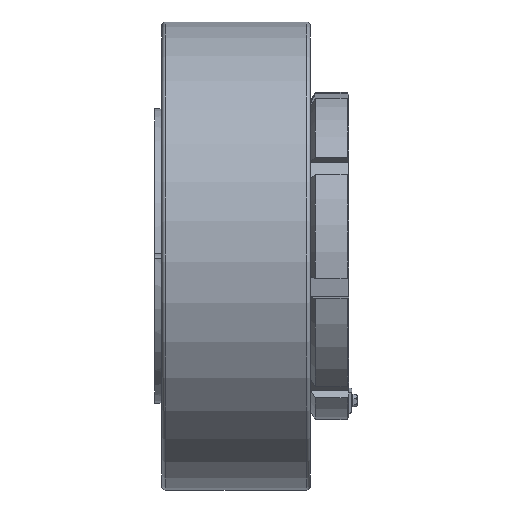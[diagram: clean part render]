
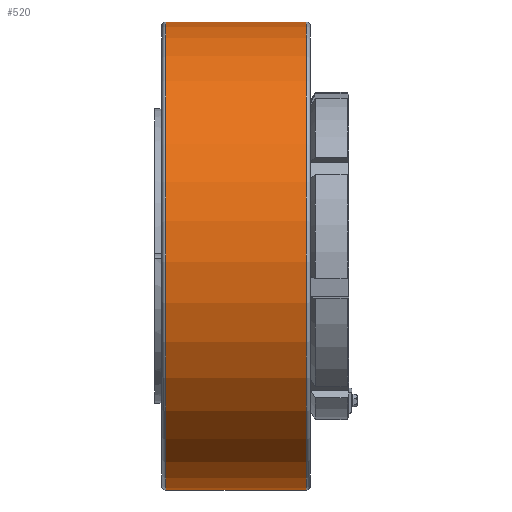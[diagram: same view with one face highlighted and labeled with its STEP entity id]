
A CAD part, front view. The second image highlights one B-rep face of the part: STEP entity #520.
In plain terms, the highlighted cylindrical face has radius 415 mm (diameter 830 mm), a full revolution.
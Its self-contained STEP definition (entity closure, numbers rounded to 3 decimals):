
#520 = ADVANCED_FACE( '', ( #1169, #1170 ), #1171, .T. );
#1169 = FACE_OUTER_BOUND( '', #1942, .T. );
#1170 = FACE_OUTER_BOUND( '', #1943, .T. );
#1171 = CYLINDRICAL_SURFACE( '', #1944, 415. );
#1942 = EDGE_LOOP( '', ( #4076 ) );
#1943 = EDGE_LOOP( '', ( #4077 ) );
#1944 = AXIS2_PLACEMENT_3D( '', #4078, #4079, #4080 );
#4076 = ORIENTED_EDGE( '', *, *, #5532, .T. );
#4077 = ORIENTED_EDGE( '', *, *, #5546, .F. );
#4078 = CARTESIAN_POINT( '', ( 0., 0., 0. ) );
#4079 = DIRECTION( '', ( -1., 0., 0. ) );
#4080 = DIRECTION( '', ( 0., 0., -1. ) );
#5532 = EDGE_CURVE( '', #6788, #6788, #6789, .T. );
#5546 = EDGE_CURVE( '', #6816, #6816, #6817, .T. );
#6788 = VERTEX_POINT( '', #8837 );
#6789 = CIRCLE( '', #8838, 415. );
#6816 = VERTEX_POINT( '', #8865 );
#6817 = CIRCLE( '', #8866, 415. );
#8837 = CARTESIAN_POINT( '', ( -336.5, 0., -415. ) );
#8838 = AXIS2_PLACEMENT_3D( '', #10404, #10405, #10406 );
#8865 = CARTESIAN_POINT( '', ( -87.5, 0., -415. ) );
#8866 = AXIS2_PLACEMENT_3D( '', #10446, #10447, #10448 );
#10404 = CARTESIAN_POINT( '', ( -336.5, 0., 0. ) );
#10405 = DIRECTION( '', ( 1., 0., 0. ) );
#10406 = DIRECTION( '', ( 0., 0., -1. ) );
#10446 = CARTESIAN_POINT( '', ( -87.5, 0., 0. ) );
#10447 = DIRECTION( '', ( 1., 0., 0. ) );
#10448 = DIRECTION( '', ( 0., 0., -1. ) );
